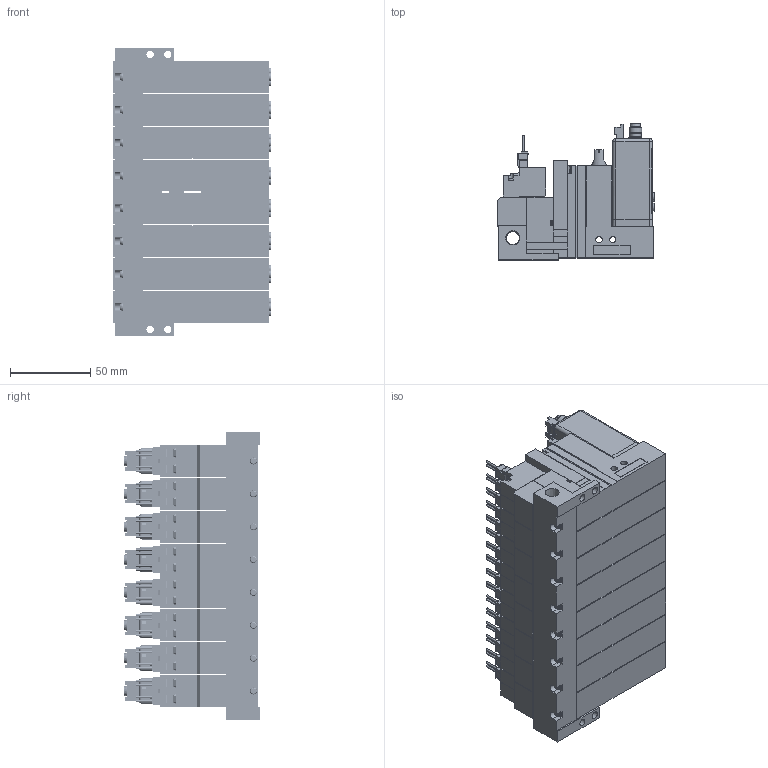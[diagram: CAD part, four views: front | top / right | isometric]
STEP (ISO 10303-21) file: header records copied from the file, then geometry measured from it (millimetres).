
FILE_DESCRIPTION(('STEP AP203'),'1');
FILE_NAME('22_22PLC5BLR808.stp','2025-06-12T05:26:40',(' '),(' '),'Spatial InterOp 3D',' ',' ');
FILE_SCHEMA(('CONFIG_CONTROL_DESIGN'));
Length unit declared in the file: millimetre
Products named in the file (12): BMC22M※※※※22_22PLC5BLR808; Solenoid valve B; Unit LC; Base MR80R; MVS-202
Assembly tree (25 placements, depth 2):
  BMC22M※※※※22_22PLC5BLR808
    Solenoid valve B  x8
    Unit LC  x8
    Base MR80R
    MVS-202
    MVS-202
    MVS-202
    MVS-202
    MVS-202
    MVS-202
    MVS-202
    MVS-202
Bounding box: 98.5 x 84.6 x 179.5 mm (x, y, z)
Volume: 867398.3 mm3; surface area: 246361.6 mm2
Topology: 25 solids, 57 shells, 6261 faces, 16323 edges, 10648 vertices
Faces by surface type: plane 5278, cylinder 757, cone 130, torus 64, sphere 32
Full cylindrical faces by diameter (mm): 1 x32, 1.4 x32, 1.5 x8, 2.5 x8, 3 x32, 3.5 x32, 3.6 x8, 4 x16, 4.134 x8, 4.5 x36, 4.8 x24, 5 x16, 5.2 x8, 5.8 x16, 6 x16, 6.5 x24, 6.6 x8, 7 x8, 7.2 x8, 7.9 x8, 8 x16, 8.279 x1
Entity records: 114482 total; most frequent: CARTESIAN_POINT 20635, ORIENTED_EDGE 18716, DIRECTION 18498, EDGE_CURVE 9358, LINE 7882, VECTOR 7882, VERTEX_POINT 6329, AXIS2_PLACEMENT_3D 5308
